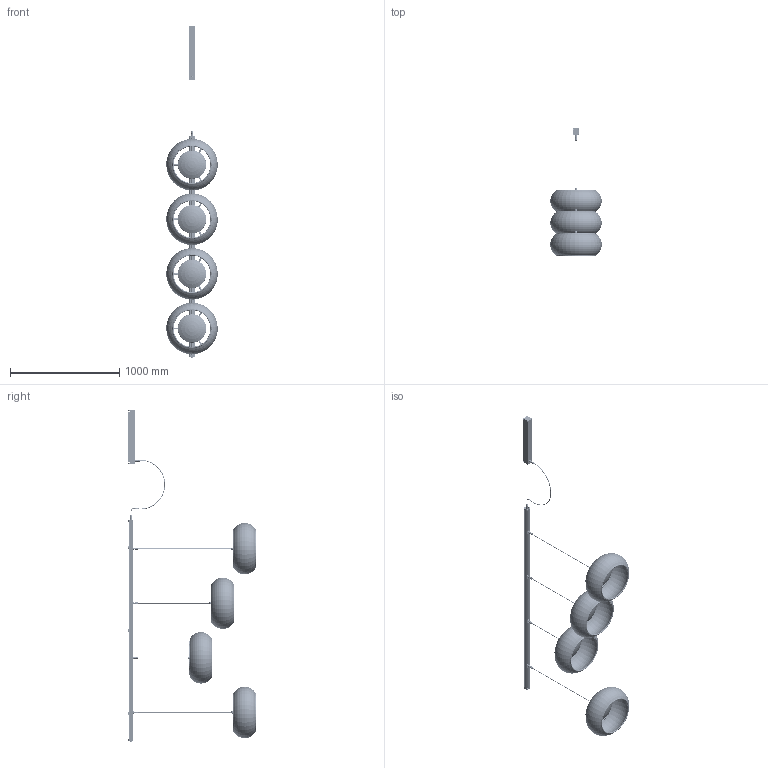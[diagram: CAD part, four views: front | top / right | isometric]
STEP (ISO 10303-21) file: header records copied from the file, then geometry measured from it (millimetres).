
FILE_DESCRIPTION (( 'STEP AP203' ), '1' );
FILE_NAME ('OUTRACK PERRIS PF-47-4L 13002104xxx.STEP', '2024-02-08T13:27:15', ( '' ), ( '' ), 'SwSTEP 2.0', 'SolidWorks 2019', '' );
FILE_SCHEMA (( 'CONFIG_CONTROL_DESIGN' ));
Length unit declared in the file: millimetre
Products named in the file (55): 000-D6798J-3.2A2; 000-130_304; 000-133-035; 000-D912-330_A2_DIN 912 M3 x 30 --- 18N; 000-D7985-310A2; 000-130 OUTRACK TAPA ACOMETIDA 20_09_22; 000-914-248; 000-906-024 PERRIS S-50 24V_CORTO; 000-130 OUTRACK TAPA ACOMETIDA 20_09_22_SIN PRENSA; OUTRACK PERRIS PF-47-4L 13002104xxx; 000-130 OUTRACK ENSAMBLAJE CONECTOR INFERIOR 20_09_22; 000-D7991-36 a2; 000-130_502; 000-D965-38_ISO 7046-1 - M3 x 5 - Z --- 5N; 000-130-115; 000-130_517; 000-130_503; 000-914-231HP; 000-37001229yyy_LARGO; 000-D913-310A2; 000-130_504; 000-D965-410A2; 000-37001229yyy_MEDIO; 000-370-010; 000-133-057; 000-906.032 - AC130304-CURVADO; 000-130_521; 000-AC130201; 000-AC130304_AC130304-CURVADO; 000-370-006; 000-914-258; 000-133-038-12; 000-370-001; 000-AC130002; 000-906-024 PERRIS S-50 24V; 000-37001229yyy_CORTO; 000-130_516; 000-130_501; 000-133-037-12; 000-133-058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
Assembly tree (189 placements, depth 4):
  OUTRACK PERRIS PF-47-4L 13002104xxx
    000-AC130002
      000-130_521
      000-130 OUTRACK TAPA ACOMETIDA 20_09_22
        000-130_516
        000-914-231HP
        000-130_517
        000-D965-38_ISO 7046-1 - M3 x 5 - Z --- 5N  x4
      000-130 OUTRACK TAPA ACOMETIDA 20_09_22_SIN PRENSA
        000-130_516
        000-914-231HP
        000-130_517
        000-D965-38_ISO 7046-1 - M3 x 5 - Z --- 5N  x4
      000-130 OUTRACK ENSAMBLAJE CONECTOR INFERIOR 20_09_22
        000-130_504
        000-130_304
        000-914-231HP
        000-D7991-310  x4
      000-130 OUTRACK ENSAMBLAJE CONECTOR INFERIOR 20_09_22
        000-130_504
        000-130_304
        000-914-231HP
        000-D7991-310  x4
      000-130 OUTRACK ENSAMBLAJE CONECTOR INFERIOR 20_09_22
        000-130_504
        000-130_304
        000-914-231HP
        000-D7991-310  x4
      000-130 OUTRACK ENSAMBLAJE CONECTOR INFERIOR 20_09_22
        000-130_504
        000-130_304
        000-914-231HP
        000-D7991-310  x4
      000-130-115
      000-914-258
    000-AC130304_AC130304-CURVADO
      000-914-231
      000-906.032 - AC130304-CURVADO
    000-37001229yyy_LARGO
      000-338-113
      000-370-001
      000-370-000_CON TELA
      000-370-010
      000-370-006  x3
      000-309-025
      000-906-024 PERRIS S-50 24V
      000-D7991-36 a2  x6
      000-370-011  x3
      000-D6798J-3.2A2  x3
      000-914-231
    000-37001229yyy_MEDIO
      000-338-113
      000-370-001
      000-370-000_CON TELA
      000-370-010
      000-370-006  x3
      000-309-025
      000-906-024 PERRIS S-50 24V_MEDIO
      000-D7991-36 a2  x6
      000-370-011  x3
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Bounding box: 470.53 x 1172.62 x 3040.6 mm (x, y, z)
Volume: 13462866.3 mm3; surface area: 5777896.4 mm2
Topology: 180 solids, 187 shells, 15633 faces, 39371 edges, 24052 vertices
Faces by surface type: plane 4831, cylinder 4091, bspline 3091, cone 1930, torus 1210, sphere 480
Entity records: 164975 total; most frequent: CARTESIAN_POINT 54431, ORIENTED_EDGE 22084, DIRECTION 19854, EDGE_CURVE 11042, AXIS2_PLACEMENT_3D 7389, VERTEX_POINT 6995, LINE 5076, VECTOR 5076
